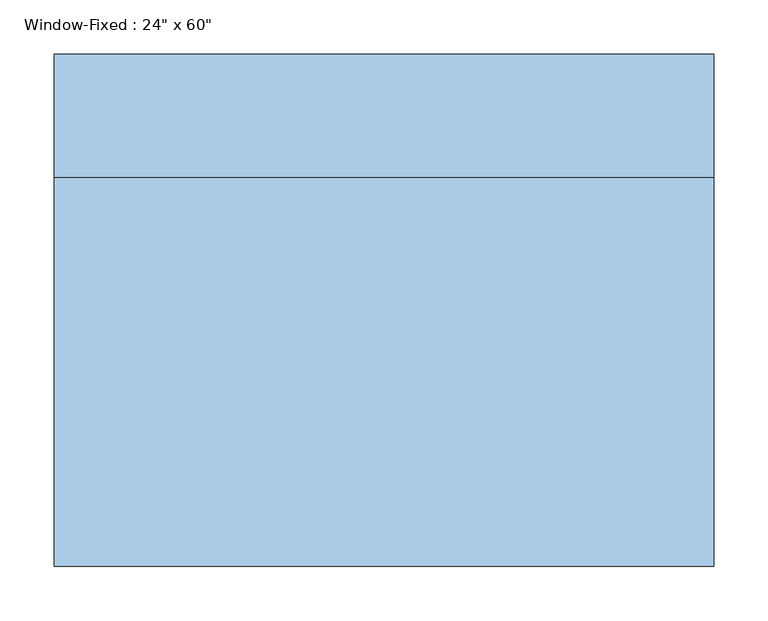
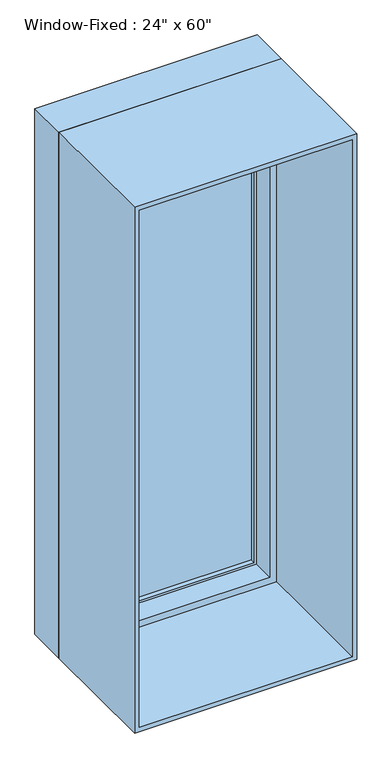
"""IFC4 building model written with IfcOpenShell, lengths in millimetres: window geometry."""

from ifc_helpers import new_model, si_unit, frame, origin, place, context, project, spatial, polyline, outline, extrude, faceted_brep, source, transform, mapped, element, save


def window_69ce9bab(model_context):
    return source(origin(), model_context, "Body", "SolidModel", [
        extrude(outline(polyline([(266.7, 227.0125), (266.7, 220.6625), (-266.7, 220.6625), (-266.7, 227.0125), (266.7, 227.0125)])), frame((0.0, 0.0, 952.5), z_axis=(0.0, 0.0, 1.0), x_axis=(1.0, 0.0, 0.0)), (0.0, 0.0, 1.0), 1447.8),
        extrude(outline(polyline([(-266.7, 207.9625), (-266.7, 214.3125), (266.7, 214.3125), (266.7, 207.9625), (-266.7, 207.9625)])), frame((0.0, 0.0, 952.5), z_axis=(0.0, 0.0, 1.0), x_axis=(1.0, 0.0, 0.0)), (0.0, 0.0, 1.0), 1447.8),
        extrude(outline(polyline([(927.1, 292.1), (2425.7, 292.1), (2425.7, -292.1), (927.1, -292.1), (927.1, 292.1)]), holes=[polyline([(952.5, -266.7), (2400.3, -266.7), (2400.3, 266.7), (952.5, 266.7), (952.5, -266.7)])]), frame((0.0, 195.2625, 0.0), z_axis=(0.0, 1.0, 0.0), x_axis=(0.0, 0.0, 1.0)), (0.0, 0.0, 1.0), 44.45),
        extrude(outline(polyline([(2438.4, -304.8), (914.4, -304.8), (914.4, 304.8), (2438.4, 304.8), (2438.4, -304.8)]), holes=[polyline([(2425.7, 292.1), (927.1, 292.1), (927.1, -292.1), (2425.7, -292.1), (2425.7, 292.1)])]), frame((0.0, -227.0125, 0.0), z_axis=(0.0, 1.0, 0.0), x_axis=(0.0, 0.0, 1.0)), (0.0, 0.0, 1.0), 358.775),
        faceted_brep([(304.8, 131.7625, 2438.4), (304.8, 246.0625, 2438.4), (-304.8, 246.0625, 2438.4), (-304.8, 131.7625, 2438.4), (-304.8, 246.0625, 914.4), (-304.8, 131.7625, 914.4), (304.8, 246.0625, 914.4), (304.8, 131.7625, 914.4), (273.05, 131.7625, 2406.65), (273.05, 131.7625, 946.15), (-273.05, 131.7625, 946.15), (-273.05, 131.7625, 2406.65), (-292.1, 246.0625, 2425.7), (-292.1, 246.0625, 927.1), (292.1, 246.0625, 927.1), (292.1, 246.0625, 2425.7), (273.05, 195.2625, 2406.65), (-273.05, 195.2625, 2406.65), (292.1, 195.2625, 2425.7), (-292.1, 195.2625, 2425.7), (-273.05, 195.2625, 946.15), (-292.1, 195.2625, 927.1), (273.05, 195.2625, 946.15), (292.1, 195.2625, 927.1)], [[[0, 1, 2, 3]], [[3, 2, 4, 5]], [[5, 4, 6, 7]], [[3, 5, 7, 0], [8, 9, 10, 11]], [[7, 6, 1, 0]], [[1, 6, 4, 2], [12, 13, 14, 15]], [[16, 8, 11, 17]], [[15, 18, 19, 12]], [[17, 11, 10, 20]], [[12, 19, 21, 13]], [[20, 10, 9, 22]], [[13, 21, 23, 14]], [[22, 9, 8, 16]], [[18, 23, 21, 19], [17, 20, 22, 16]], [[14, 23, 18, 15]]]),
    ])


if __name__ == "__main__":
    model = new_model("IFC4")
    model_context = context("Model", 3, world=origin())
    ifc_project = project(units=[si_unit("LENGTHUNIT", "METRE", prefix="MILLI")], contexts=[model_context])
    site = spatial("IfcSite", under=ifc_project)
    building = spatial("IfcBuilding", under=site)
    placement = place(None, origin())
    window_shape = window_69ce9bab(model_context)
    element("IfcWindow", 1, ObjectType="Window-Fixed : 24\" x 60\"", at=placement, inside=building, context=model_context, shape_type="MappedRepresentation", body=[
        mapped(window_shape, transform((0.0, 0.0, 0.0), x_axis=(1.0, 0.0, 0.0), y_axis=(0.0, 1.0, 0.0), z_axis=(0.0, 0.0, 1.0))),
    ])
    save(model, "model.ifc")
